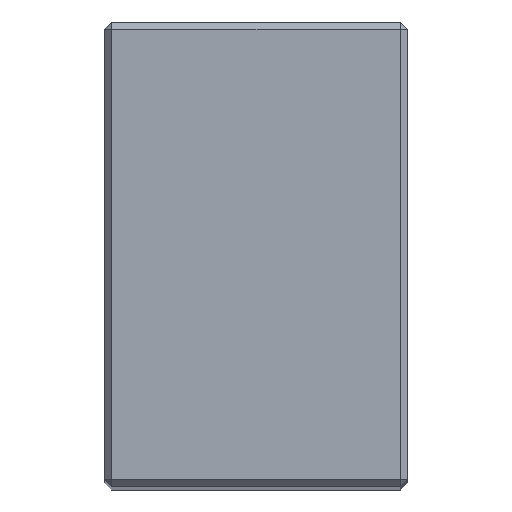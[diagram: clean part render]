
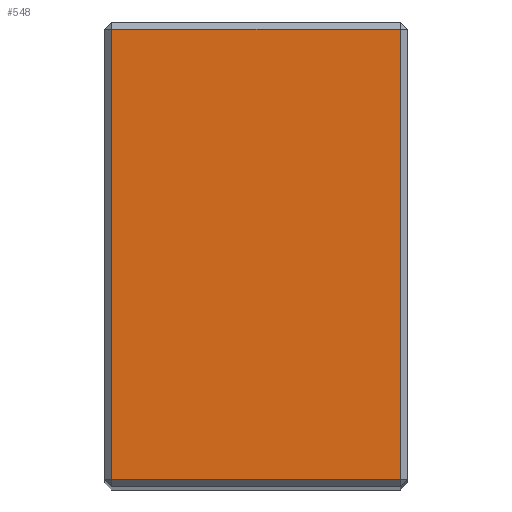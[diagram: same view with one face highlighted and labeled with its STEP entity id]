
A CAD part, top view. The second image highlights one B-rep face of the part: STEP entity #548.
In plain terms, the highlighted planar face has unit normal (0, 0, 1).
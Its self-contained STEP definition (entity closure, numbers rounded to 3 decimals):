
#7 = LINE ( 'NONE', #275, #258 ) ;
#11 = LINE ( 'NONE', #231, #283 ) ;
#22 = VERTEX_POINT ( 'NONE', #316 ) ;
#39 = ORIENTED_EDGE ( 'NONE', *, *, #444, .T. ) ;
#47 = AXIS2_PLACEMENT_3D ( 'NONE', #507, #96, #552 ) ;
#96 = DIRECTION ( 'NONE',  ( 0., 0., -1. ) ) ;
#138 = VERTEX_POINT ( 'NONE', #291 ) ;
#166 = PLANE ( 'NONE',  #47 ) ;
#171 = EDGE_CURVE ( 'NONE', #562, #22, #601, .T. ) ;
#199 = ORIENTED_EDGE ( 'NONE', *, *, #419, .T. ) ;
#210 = VERTEX_POINT ( 'NONE', #567 ) ;
#218 = CARTESIAN_POINT ( 'NONE',  ( -20.5, 65., 123. ) ) ;
#231 = CARTESIAN_POINT ( 'NONE',  ( 21.5, 1., 123. ) ) ;
#232 = DIRECTION ( 'NONE',  ( 0., -1., 0. ) ) ;
#239 = ORIENTED_EDGE ( 'NONE', *, *, #171, .T. ) ;
#244 = DIRECTION ( 'NONE',  ( -1., 0., 0. ) ) ;
#258 = VECTOR ( 'NONE', #327, 1000. ) ;
#272 = ORIENTED_EDGE ( 'NONE', *, *, #496, .T. ) ;
#274 = FACE_OUTER_BOUND ( 'NONE', #402, .T. ) ;
#275 = CARTESIAN_POINT ( 'NONE',  ( 20.5, 66., 123. ) ) ;
#283 = VECTOR ( 'NONE', #586, 1000. ) ;
#291 = CARTESIAN_POINT ( 'NONE',  ( 20.5, 65., 123. ) ) ;
#316 = CARTESIAN_POINT ( 'NONE',  ( -20.5, 1., 123. ) ) ;
#327 = DIRECTION ( 'NONE',  ( 0., 1., 0. ) ) ;
#334 = LINE ( 'NONE', #446, #448 ) ;
#356 = VECTOR ( 'NONE', #232, 1000. ) ;
#402 = EDGE_LOOP ( 'NONE', ( #199, #239, #39, #272 ) ) ;
#419 = EDGE_CURVE ( 'NONE', #138, #562, #334, .T. ) ;
#444 = EDGE_CURVE ( 'NONE', #22, #210, #11, .T. ) ;
#446 = CARTESIAN_POINT ( 'NONE',  ( -21.5, 65., 123. ) ) ;
#448 = VECTOR ( 'NONE', #244, 1000. ) ;
#496 = EDGE_CURVE ( 'NONE', #210, #138, #7, .T. ) ;
#507 = CARTESIAN_POINT ( 'NONE',  ( 21.5, 66., 123. ) ) ;
#548 = ADVANCED_FACE ( 'NONE', ( #274 ), #166, .F. ) ;
#552 = DIRECTION ( 'NONE',  ( -1., 0., 0. ) ) ;
#562 = VERTEX_POINT ( 'NONE', #218 ) ;
#567 = CARTESIAN_POINT ( 'NONE',  ( 20.5, 1., 123. ) ) ;
#586 = DIRECTION ( 'NONE',  ( 1., 0., 0. ) ) ;
#601 = LINE ( 'NONE', #615, #356 ) ;
#615 = CARTESIAN_POINT ( 'NONE',  ( -20.5, 66., 123. ) ) ;
